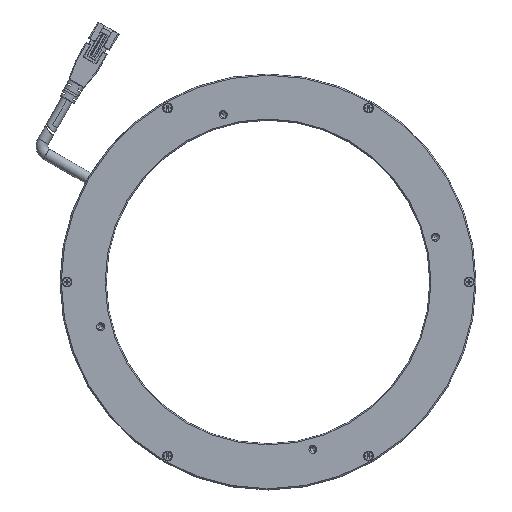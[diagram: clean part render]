
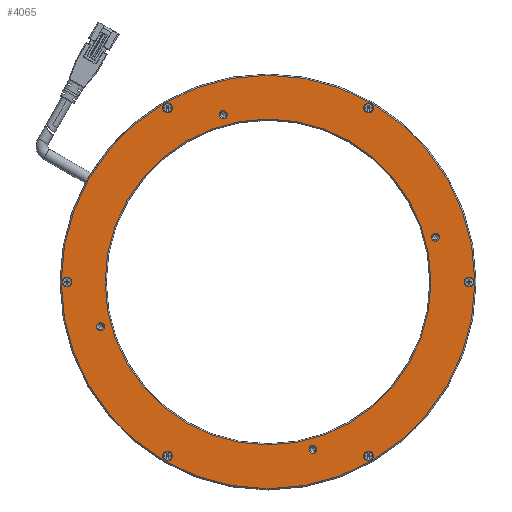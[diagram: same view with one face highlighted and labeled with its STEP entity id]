
A CAD part, top view. The second image highlights one B-rep face of the part: STEP entity #4065.
In plain terms, the highlighted planar face has unit normal (0, 0, 1).
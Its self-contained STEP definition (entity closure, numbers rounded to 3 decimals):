
#283=CARTESIAN_POINT('',(0.,0.,2.));
#284=DIRECTION('',(0.,0.,-1.));
#285=DIRECTION('',(-0.866,-0.5,0.));
#286=AXIS2_PLACEMENT_3D('',#283,#284,#285);
#288=CARTESIAN_POINT('',(0.,0.,2.));
#289=DIRECTION('',(0.,0.,-1.));
#290=DIRECTION('',(0.866,0.5,0.));
#291=AXIS2_PLACEMENT_3D('',#288,#289,#290);
#293=CARTESIAN_POINT('',(72.444,19.411,2.));
#294=DIRECTION('',(0.,0.,-1.));
#295=DIRECTION('',(-0.866,-0.5,0.));
#296=AXIS2_PLACEMENT_3D('',#293,#294,#295);
#298=CARTESIAN_POINT('',(72.444,19.411,2.));
#299=DIRECTION('',(0.,0.,-1.));
#300=DIRECTION('',(0.866,0.5,0.));
#301=AXIS2_PLACEMENT_3D('',#298,#299,#300);
#303=CARTESIAN_POINT('',(19.411,-72.444,2.));
#304=DIRECTION('',(0.,0.,-1.));
#305=DIRECTION('',(-0.5,0.866,0.));
#306=AXIS2_PLACEMENT_3D('',#303,#304,#305);
#308=CARTESIAN_POINT('',(19.411,-72.444,2.));
#309=DIRECTION('',(0.,0.,-1.));
#310=DIRECTION('',(0.5,-0.866,0.));
#311=AXIS2_PLACEMENT_3D('',#308,#309,#310);
#313=CARTESIAN_POINT('',(-72.444,-19.411,2.));
#314=DIRECTION('',(0.,0.,-1.));
#315=DIRECTION('',(0.866,0.5,0.));
#316=AXIS2_PLACEMENT_3D('',#313,#314,#315);
#318=CARTESIAN_POINT('',(-72.444,-19.411,2.));
#319=DIRECTION('',(0.,0.,-1.));
#320=DIRECTION('',(-0.866,-0.5,0.));
#321=AXIS2_PLACEMENT_3D('',#318,#319,#320);
#323=CARTESIAN_POINT('',(-19.411,72.444,2.));
#324=DIRECTION('',(0.,0.,-1.));
#325=DIRECTION('',(0.5,-0.866,0.));
#326=AXIS2_PLACEMENT_3D('',#323,#324,#325);
#328=CARTESIAN_POINT('',(-19.411,72.444,2.));
#329=DIRECTION('',(0.,0.,-1.));
#330=DIRECTION('',(-0.5,0.866,0.));
#331=AXIS2_PLACEMENT_3D('',#328,#329,#330);
#333=CARTESIAN_POINT('',(-43.5,-75.344,2.));
#334=DIRECTION('',(0.,0.,-1.));
#335=DIRECTION('',(-0.5,-0.866,0.));
#336=AXIS2_PLACEMENT_3D('',#333,#334,#335);
#338=CARTESIAN_POINT('',(-43.5,-75.344,2.));
#339=DIRECTION('',(0.,0.,-1.));
#340=DIRECTION('',(0.5,0.866,0.));
#341=AXIS2_PLACEMENT_3D('',#338,#339,#340);
#343=CARTESIAN_POINT('',(-87.,0.,2.));
#344=DIRECTION('',(0.,0.,-1.));
#345=DIRECTION('',(-1.,0.,0.));
#346=AXIS2_PLACEMENT_3D('',#343,#344,#345);
#348=CARTESIAN_POINT('',(-87.,0.,2.));
#349=DIRECTION('',(0.,0.,-1.));
#350=DIRECTION('',(1.,0.,0.));
#351=AXIS2_PLACEMENT_3D('',#348,#349,#350);
#353=CARTESIAN_POINT('',(-43.5,75.344,2.));
#354=DIRECTION('',(0.,0.,-1.));
#355=DIRECTION('',(-0.5,0.866,0.));
#356=AXIS2_PLACEMENT_3D('',#353,#354,#355);
#358=CARTESIAN_POINT('',(-43.5,75.344,2.));
#359=DIRECTION('',(0.,0.,-1.));
#360=DIRECTION('',(0.5,-0.866,0.));
#361=AXIS2_PLACEMENT_3D('',#358,#359,#360);
#363=CARTESIAN_POINT('',(43.5,75.344,2.));
#364=DIRECTION('',(0.,0.,-1.));
#365=DIRECTION('',(0.5,0.866,0.));
#366=AXIS2_PLACEMENT_3D('',#363,#364,#365);
#368=CARTESIAN_POINT('',(43.5,75.344,2.));
#369=DIRECTION('',(0.,0.,-1.));
#370=DIRECTION('',(-0.5,-0.866,0.));
#371=AXIS2_PLACEMENT_3D('',#368,#369,#370);
#373=CARTESIAN_POINT('',(87.,0.,2.));
#374=DIRECTION('',(0.,0.,-1.));
#375=DIRECTION('',(1.,0.,0.));
#376=AXIS2_PLACEMENT_3D('',#373,#374,#375);
#378=CARTESIAN_POINT('',(87.,0.,2.));
#379=DIRECTION('',(0.,0.,-1.));
#380=DIRECTION('',(-1.,0.,0.));
#381=AXIS2_PLACEMENT_3D('',#378,#379,#380);
#383=CARTESIAN_POINT('',(43.5,-75.344,2.));
#384=DIRECTION('',(0.,0.,-1.));
#385=DIRECTION('',(0.5,-0.866,0.));
#386=AXIS2_PLACEMENT_3D('',#383,#384,#385);
#388=CARTESIAN_POINT('',(43.5,-75.344,2.));
#389=DIRECTION('',(0.,0.,-1.));
#390=DIRECTION('',(-0.5,0.866,0.));
#391=AXIS2_PLACEMENT_3D('',#388,#389,#390);
#393=CARTESIAN_POINT('',(0.,0.,2.));
#394=DIRECTION('',(0.,0.,1.));
#395=DIRECTION('',(0.866,0.5,0.));
#396=AXIS2_PLACEMENT_3D('',#393,#394,#395);
#398=CARTESIAN_POINT('',(0.,0.,2.));
#399=DIRECTION('',(0.,0.,1.));
#400=DIRECTION('',(-0.866,-0.5,0.));
#401=AXIS2_PLACEMENT_3D('',#398,#399,#400);
#2899=CARTESIAN_POINT('',(-77.509,-44.75,2.));
#2900=CARTESIAN_POINT('',(77.509,44.75,2.));
#2901=VERTEX_POINT('',#2899);
#2902=VERTEX_POINT('',#2900);
#2903=CARTESIAN_POINT('',(42.425,-73.482,2.));
#2904=CARTESIAN_POINT('',(44.575,-77.206,2.));
#2905=VERTEX_POINT('',#2903);
#2906=VERTEX_POINT('',#2904);
#2907=CARTESIAN_POINT('',(84.85,0.,2.));
#2908=CARTESIAN_POINT('',(89.15,0.,2.));
#2909=VERTEX_POINT('',#2907);
#2910=VERTEX_POINT('',#2908);
#2911=CARTESIAN_POINT('',(42.425,73.482,2.));
#2912=CARTESIAN_POINT('',(44.575,77.206,2.));
#2913=VERTEX_POINT('',#2911);
#2914=VERTEX_POINT('',#2912);
#2915=CARTESIAN_POINT('',(-42.425,73.482,2.));
#2916=CARTESIAN_POINT('',(-44.575,77.206,2.));
#2917=VERTEX_POINT('',#2915);
#2918=VERTEX_POINT('',#2916);
#2919=CARTESIAN_POINT('',(-84.85,0.,2.));
#2920=CARTESIAN_POINT('',(-89.15,0.,2.));
#2921=VERTEX_POINT('',#2919);
#2922=VERTEX_POINT('',#2920);
#2923=CARTESIAN_POINT('',(-42.425,-73.482,2.));
#2924=CARTESIAN_POINT('',(-44.575,-77.206,2.));
#2925=VERTEX_POINT('',#2923);
#2926=VERTEX_POINT('',#2924);
#2927=CARTESIAN_POINT('',(-20.261,73.917,2.));
#2928=CARTESIAN_POINT('',(-18.561,70.972,2.));
#2929=VERTEX_POINT('',#2927);
#2930=VERTEX_POINT('',#2928);
#2931=CARTESIAN_POINT('',(-73.917,-20.261,2.));
#2932=CARTESIAN_POINT('',(-70.972,-18.561,2.));
#2933=VERTEX_POINT('',#2931);
#2934=VERTEX_POINT('',#2932);
#2935=CARTESIAN_POINT('',(20.261,-73.917,2.));
#2936=CARTESIAN_POINT('',(18.561,-70.972,2.));
#2937=VERTEX_POINT('',#2935);
#2938=VERTEX_POINT('',#2936);
#2939=CARTESIAN_POINT('',(73.917,20.261,2.));
#2940=CARTESIAN_POINT('',(70.972,18.561,2.));
#2941=VERTEX_POINT('',#2939);
#2942=VERTEX_POINT('',#2940);
#2943=CARTESIAN_POINT('',(61.055,35.25,2.));
#2944=CARTESIAN_POINT('',(-61.055,-35.25,2.));
#2945=VERTEX_POINT('',#2943);
#2946=VERTEX_POINT('',#2944);
#3990=CARTESIAN_POINT('',(0.,0.,2.));
#3991=DIRECTION('',(0.,0.,1.));
#3992=DIRECTION('',(-0.866,-0.5,0.));
#3993=AXIS2_PLACEMENT_3D('',#3990,#3991,#3992);
#3994=PLANE('',#3993);
#3996=ORIENTED_EDGE('',*,*,#3995,.F.);
#3998=ORIENTED_EDGE('',*,*,#3997,.F.);
#3999=EDGE_LOOP('',(#3996,#3998));
#4000=FACE_OUTER_BOUND('',#3999,.F.);
#4002=ORIENTED_EDGE('',*,*,#4001,.F.);
#4004=ORIENTED_EDGE('',*,*,#4003,.F.);
#4005=EDGE_LOOP('',(#4002,#4004));
#4006=FACE_BOUND('',#4005,.F.);
#4008=ORIENTED_EDGE('',*,*,#4007,.F.);
#4010=ORIENTED_EDGE('',*,*,#4009,.F.);
#4011=EDGE_LOOP('',(#4008,#4010));
#4012=FACE_BOUND('',#4011,.F.);
#4014=ORIENTED_EDGE('',*,*,#4013,.F.);
#4016=ORIENTED_EDGE('',*,*,#4015,.F.);
#4017=EDGE_LOOP('',(#4014,#4016));
#4018=FACE_BOUND('',#4017,.F.);
#4020=ORIENTED_EDGE('',*,*,#4019,.F.);
#4022=ORIENTED_EDGE('',*,*,#4021,.F.);
#4023=EDGE_LOOP('',(#4020,#4022));
#4024=FACE_BOUND('',#4023,.F.);
#4026=ORIENTED_EDGE('',*,*,#4025,.F.);
#4028=ORIENTED_EDGE('',*,*,#4027,.F.);
#4029=EDGE_LOOP('',(#4026,#4028));
#4030=FACE_BOUND('',#4029,.F.);
#4032=ORIENTED_EDGE('',*,*,#4031,.F.);
#4034=ORIENTED_EDGE('',*,*,#4033,.F.);
#4035=EDGE_LOOP('',(#4032,#4034));
#4036=FACE_BOUND('',#4035,.F.);
#4037=ORIENTED_EDGE('',*,*,#3955,.F.);
#4038=ORIENTED_EDGE('',*,*,#3983,.F.);
#4039=EDGE_LOOP('',(#4037,#4038));
#4040=FACE_BOUND('',#4039,.F.);
#4042=ORIENTED_EDGE('',*,*,#4041,.F.);
#4044=ORIENTED_EDGE('',*,*,#4043,.F.);
#4045=EDGE_LOOP('',(#4042,#4044));
#4046=FACE_BOUND('',#4045,.F.);
#4048=ORIENTED_EDGE('',*,*,#4047,.F.);
#4050=ORIENTED_EDGE('',*,*,#4049,.F.);
#4051=EDGE_LOOP('',(#4048,#4050));
#4052=FACE_BOUND('',#4051,.F.);
#4054=ORIENTED_EDGE('',*,*,#4053,.F.);
#4056=ORIENTED_EDGE('',*,*,#4055,.F.);
#4057=EDGE_LOOP('',(#4054,#4056));
#4058=FACE_BOUND('',#4057,.F.);
#4060=ORIENTED_EDGE('',*,*,#4059,.F.);
#4062=ORIENTED_EDGE('',*,*,#4061,.F.);
#4063=EDGE_LOOP('',(#4060,#4062));
#4064=FACE_BOUND('',#4063,.F.);
#4065=ADVANCED_FACE('',(#4000,#4006,#4012,#4018,#4024,#4030,#4036,#4040,#4046,
#4052,#4058,#4064),#3994,.T.);
#287=CIRCLE('',#286,70.5);
#292=CIRCLE('',#291,70.5);
#297=CIRCLE('',#296,1.7);
#302=CIRCLE('',#301,1.7);
#307=CIRCLE('',#306,1.7);
#312=CIRCLE('',#311,1.7);
#317=CIRCLE('',#316,1.7);
#322=CIRCLE('',#321,1.7);
#327=CIRCLE('',#326,1.7);
#332=CIRCLE('',#331,1.7);
#337=CIRCLE('',#336,2.15);
#342=CIRCLE('',#341,2.15);
#347=CIRCLE('',#346,2.15);
#352=CIRCLE('',#351,2.15);
#357=CIRCLE('',#356,2.15);
#362=CIRCLE('',#361,2.15);
#367=CIRCLE('',#366,2.15);
#372=CIRCLE('',#371,2.15);
#377=CIRCLE('',#376,2.15);
#382=CIRCLE('',#381,2.15);
#387=CIRCLE('',#386,2.15);
#392=CIRCLE('',#391,2.15);
#397=CIRCLE('',#396,89.5);
#402=CIRCLE('',#401,89.5);
#3955=EDGE_CURVE('',#2918,#2917,#357,.T.);
#3983=EDGE_CURVE('',#2917,#2918,#362,.T.);
#3995=EDGE_CURVE('',#2902,#2901,#397,.T.);
#3997=EDGE_CURVE('',#2901,#2902,#402,.T.);
#4001=EDGE_CURVE('',#2942,#2941,#297,.T.);
#4003=EDGE_CURVE('',#2941,#2942,#302,.T.);
#4007=EDGE_CURVE('',#2938,#2937,#307,.T.);
#4009=EDGE_CURVE('',#2937,#2938,#312,.T.);
#4013=EDGE_CURVE('',#2934,#2933,#317,.T.);
#4015=EDGE_CURVE('',#2933,#2934,#322,.T.);
#4019=EDGE_CURVE('',#2930,#2929,#327,.T.);
#4021=EDGE_CURVE('',#2929,#2930,#332,.T.);
#4025=EDGE_CURVE('',#2926,#2925,#337,.T.);
#4027=EDGE_CURVE('',#2925,#2926,#342,.T.);
#4031=EDGE_CURVE('',#2922,#2921,#347,.T.);
#4033=EDGE_CURVE('',#2921,#2922,#352,.T.);
#4041=EDGE_CURVE('',#2914,#2913,#367,.T.);
#4043=EDGE_CURVE('',#2913,#2914,#372,.T.);
#4047=EDGE_CURVE('',#2910,#2909,#377,.T.);
#4049=EDGE_CURVE('',#2909,#2910,#382,.T.);
#4053=EDGE_CURVE('',#2906,#2905,#387,.T.);
#4055=EDGE_CURVE('',#2905,#2906,#392,.T.);
#4059=EDGE_CURVE('',#2946,#2945,#287,.T.);
#4061=EDGE_CURVE('',#2945,#2946,#292,.T.);
